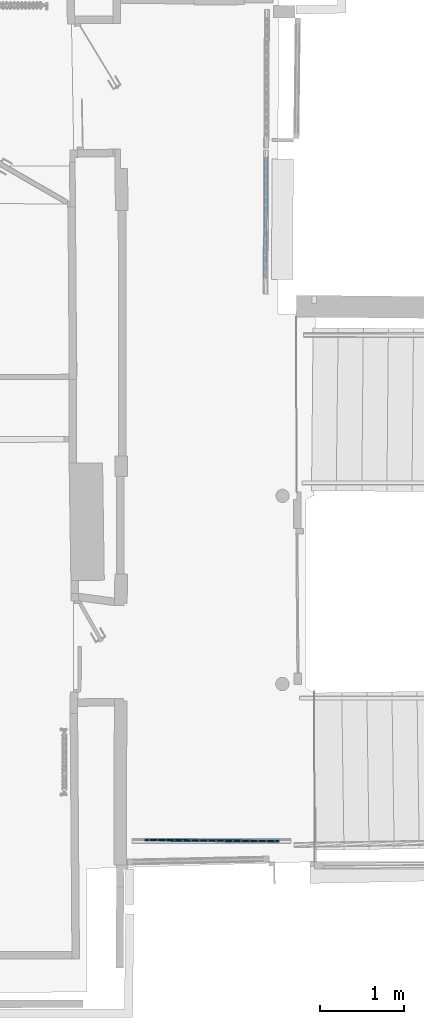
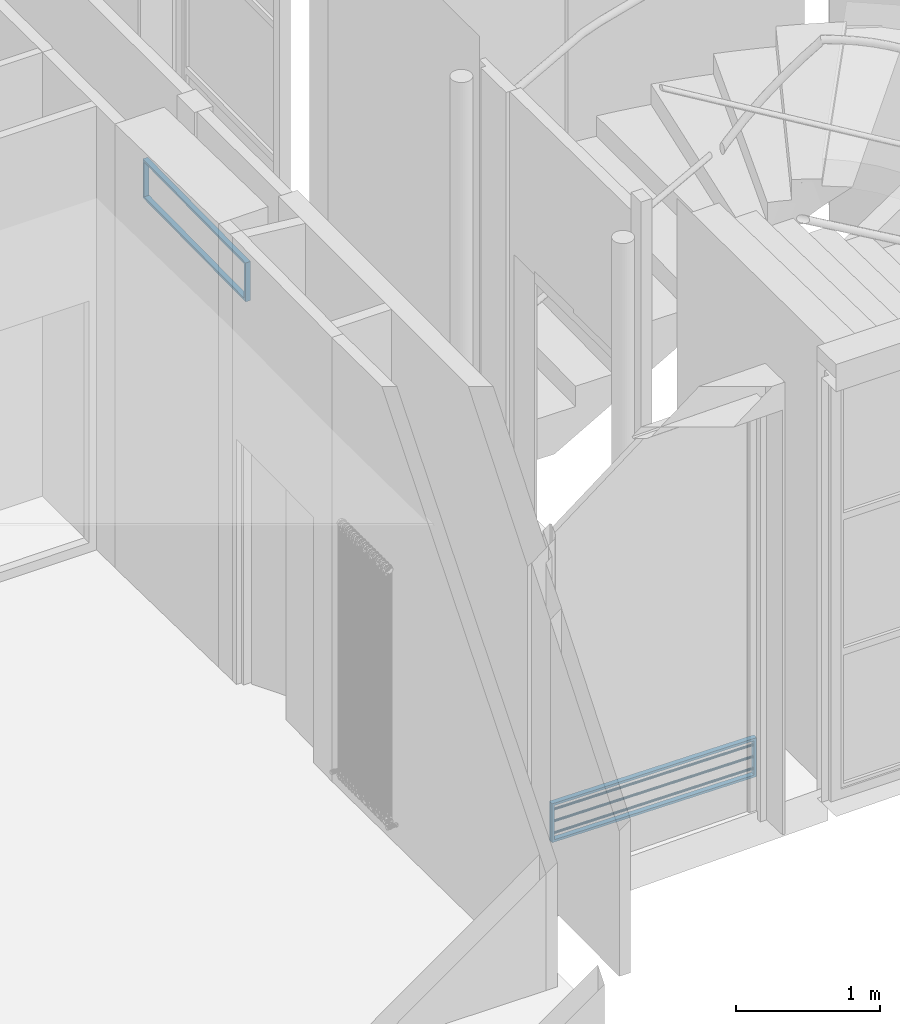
# One storey, part 19 of 66: 5 members, 2 elements without a shape of their own.
"""IFC2X3 building model written with IfcOpenShell, lengths in centimetres."""

from ifc_helpers import new_model, entity, si_unit, converted_unit, direction, frame, origin, origin_with_axes, place, context, subcontext, project, spatial, faceted_brep, material, type_object, element, aggregate, save


model = new_model("IFC2X3")

# Units and contexts
model_context = context("Model", 3, precision=0.0001, world=origin(), true_north=direction((0.225632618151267, 0.974212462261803, 0.0)))
body_context = subcontext(model_context, "Body", "Model", "MODEL_VIEW")
ifc_project = project(units=[si_unit("LENGTHUNIT", "METRE", prefix="CENTI"), si_unit("AREAUNIT", "SQUARE_METRE", prefix="CENTI"), si_unit("VOLUMEUNIT", "CUBIC_METRE", prefix="CENTI"), converted_unit("PLANEANGLEUNIT", "DEGREE", entity("IfcRatioMeasure", 0.0174532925), si_unit("PLANEANGLEUNIT", "RADIAN"), dimensions=[0, 0, 0, 0, 0, 0, 0])], contexts=[model_context])

# Site, building, storey
site_placement = place(None, origin_with_axes())
site = spatial("IfcSite", under=ifc_project, at=site_placement, Name="Default Site", CompositionType="ELEMENT")
building_placement = place(site_placement, origin_with_axes())
building = spatial("IfcBuilding", under=site, at=building_placement, Name="Default Building", CompositionType="ELEMENT")
storey_placement = place(building_placement, frame((0.0, 0.0, 477.795358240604), z_axis=(0.0, 0.0, 1.0), x_axis=(1.0, 0.0, 0.0)))
storey = spatial("IfcBuildingStorey", under=building, at=storey_placement, Name="Niveau 1", CompositionType="ELEMENT", Elevation=477.795358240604)

# Assembly, member
building_element_proxy_type = type_object("IfcBuildingElementProxyType", Name="Type Object", PredefinedType="NOTDEFINED")
assembly_1_placement = place(storey_placement, frame((1064.33713672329, -30.426748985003, 9.99999999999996), z_axis=(0.0, 0.0, 1.0), x_axis=(-0.00922380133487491, -0.999957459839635, 0.0)))
assembly_1 = element("IfcElementAssembly", 1, at=assembly_1_placement, inside=storey, type_object=building_element_proxy_type, Name="Panneau 1702026", ObjectType="Precast panel", PredefinedType="USERDEFINED")
ifc_material = material(Name="Aluminium satiné")
member_1_placement = place(assembly_1_placement, frame((1.99999995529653, 1.99999995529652, 31.0000002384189), z_axis=(1.0, -1.0321604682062e-15, -1.19636099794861e-17), x_axis=(1.0321604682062e-15, 1.0, 0.0)))
member_1 = element("IfcMember", 2, at=member_1_placement, material=ifc_material, Name="4294967079", context=body_context, shape_type="Brep", body=[
    faceted_brep([(-5.29437604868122e-13, -3.33066907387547e-13, -6.59194920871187e-15), (-3.99999991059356, -3.33066907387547e-13, -2.40779627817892e-15), (-3.99999991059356, -29.0000002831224, -2.40779627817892e-15), (-5.29437604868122e-13, -29.0000002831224, -6.59194920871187e-15), (-3.99999991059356, -3.33066907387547e-13, -2.42861286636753e-15), (-3.99999991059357, 2.00000107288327, -1.99999995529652), (-3.99999991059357, -31.0000002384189, -1.99999995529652), (-3.99999991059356, -29.0000002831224, -2.08166817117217e-15), (-5.31519273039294e-13, 2.00000107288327, -1.99999995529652), (-5.31519273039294e-13, -31.0000002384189, -1.99999995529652), (-5.29427196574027e-13, -3.33066907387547e-13, -6.59194920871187e-15), (-5.29427196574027e-13, -29.0000002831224, -6.24500451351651e-15), (-5.29437604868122e-13, -29.0000002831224, -6.24500451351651e-15), (-3.99999991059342, -29.0000002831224, 140.999994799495), (-3.81986109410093e-13, -29.0000002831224, 140.999994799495), (-3.99999991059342, -31.0000002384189, 143.000004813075), (-3.79904441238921e-13, -31.0000002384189, 143.000004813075), (-3.81935807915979e-13, -29.0000002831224, 140.999994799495), (-3.79843720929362e-13, -31.0000002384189, 143.000004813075), (-3.99999991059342, -3.33066907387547e-13, 140.999994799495), (-3.81986109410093e-13, -3.33066907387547e-13, 140.999994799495), (-3.99999991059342, 2.00000107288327, 143.000004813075), (-3.79904441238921e-13, 2.00000107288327, 143.000004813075), (-3.81996528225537e-13, -29.0000002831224, 140.999994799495), (-3.81996528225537e-13, -3.33066907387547e-13, 140.999994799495), (-3.99999991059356, -3.34753776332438e-13, -2.42861286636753e-15), (-5.29437604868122e-13, -3.34753776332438e-13, -6.59194920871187e-15), (-5.29487916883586e-13, -3.33066907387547e-13, -6.59194920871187e-15), (-5.31579993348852e-13, 2.00000107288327, -1.99999995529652)], [[[0, 1, 2, 3]], [[4, 5, 6, 7]], [[5, 8, 9, 6]], [[8, 10, 11, 9]], [[12, 7, 13, 14]], [[7, 6, 15, 13]], [[6, 9, 16, 15]], [[9, 11, 17, 18]], [[14, 13, 19, 20]], [[13, 15, 21, 19]], [[15, 16, 22, 21]], [[16, 23, 24, 22]], [[20, 19, 25, 26]], [[19, 21, 5, 4]], [[21, 22, 8, 5]], [[22, 24, 27, 28]]]),
])
aggregate(assembly_1, [member_1])

# Assembly, members
assembly_2_placement = place(storey_placement, frame((1081.09889200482, -848.13, 9.99999999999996), z_axis=(0.0, 0.0, 1.0), x_axis=(-0.999957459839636, 0.00922380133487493, 0.0)))
assembly_2 = element("IfcElementAssembly", 3, at=assembly_2_placement, inside=storey, type_object=building_element_proxy_type, Name="Panneau 1702007", ObjectType="Precast panel", PredefinedType="USERDEFINED")
member_2_placement = place(assembly_2_placement, frame((1.99999995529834, 1.99999995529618, 31.0000002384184), z_axis=(1.0, -3.79904441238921e-15, -1.19636099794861e-17), x_axis=(3.79904441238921e-15, 1.0, 0.0)))
member_2 = element("IfcMember", 4, at=member_2_placement, material=ifc_material, Name="4294967043", context=body_context, shape_type="Brep", body=[
    faceted_brep([(8.95811202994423e-13, 3.33066907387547e-13, -1.07379383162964e-12), (-3.99999991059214, 3.33066907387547e-13, -1.05867398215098e-12), (-3.99999991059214, -29.0000002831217, -1.05867398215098e-12), (8.95811202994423e-13, -29.0000002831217, -1.07379383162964e-12), (-3.99999991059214, 3.33066907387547e-13, -1.05852826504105e-12), (-3.99999991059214, 2.00000107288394, -1.99999995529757), (-3.99999991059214, -31.0000002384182, -1.99999995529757), (-3.99999991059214, -29.0000002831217, -1.05818132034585e-12), (8.88178419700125e-13, 2.00000107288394, -1.99999995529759), (8.88178419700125e-13, -31.0000002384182, -1.99999995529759), (8.95738344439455e-13, 3.33066907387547e-13, -1.07379383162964e-12), (8.95738344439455e-13, -29.0000002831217, -1.07344688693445e-12), (8.95811202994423e-13, -29.0000002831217, -1.07344688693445e-12), (-3.99999991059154, -29.0000002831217, 159.000001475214), (1.49671941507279e-12, -29.0000002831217, 159.000001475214), (-3.99999991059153, -31.0000002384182, 160.999999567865), (1.50435219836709e-12, -31.0000002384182, 160.999999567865), (1.49675238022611e-12, -29.0000002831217, 159.000001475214), (1.50431229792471e-12, -31.0000002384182, 160.999999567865), (-3.99999991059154, 3.33066907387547e-13, 159.000001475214), (1.49671941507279e-12, 3.33066907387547e-13, 159.000001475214), (-3.99999991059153, 2.00000107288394, 160.999999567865), (1.50435219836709e-12, 2.00000107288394, 160.999999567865), (1.49679228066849e-12, -29.0000002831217, 159.000001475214), (1.49679228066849e-12, 3.33066907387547e-13, 159.000001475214), (-3.99999991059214, 3.3116469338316e-13, -1.05852826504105e-12), (8.95811202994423e-13, 3.3116469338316e-13, -1.07379383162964e-12), (8.95778244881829e-13, 3.33066907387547e-13, -1.07379383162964e-12), (8.88218320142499e-13, 2.00000107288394, -1.99999995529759)], [[[0, 1, 2, 3]], [[4, 5, 6, 7]], [[5, 8, 9, 6]], [[8, 10, 11, 9]], [[12, 7, 13, 14]], [[7, 6, 15, 13]], [[6, 9, 16, 15]], [[9, 11, 17, 18]], [[14, 13, 19, 20]], [[13, 15, 21, 19]], [[15, 16, 22, 21]], [[16, 23, 24, 22]], [[20, 19, 25, 26]], [[19, 21, 5, 4]], [[21, 22, 8, 5]], [[22, 24, 27, 28]]]),
])
member_3_placement = place(assembly_2_placement, frame((161.000001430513, 0.342020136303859, 25.5603075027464), z_axis=(1.0, -2.2110958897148e-13, -1.27647892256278e-13), x_axis=(-2.55309662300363e-13, -0.866024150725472, -0.500002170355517)))
member_3 = element("IfcMember", 5, at=member_3_placement, material=ifc_material, Name="4294967042", context=body_context, shape_type="Brep", body=[
    faceted_brep([(-7.07767178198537e-13, 1.33226762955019e-13, -8.65973959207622e-13), (-0.347296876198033, 9.71445146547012e-14, -9.54636785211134e-13), (-0.673647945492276, -0.118779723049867, -1.03795237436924e-12), (-0.939693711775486, -0.342018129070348, -1.10587246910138e-12), (-1.11334216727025, -0.642784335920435, -1.15020414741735e-12), (-1.17365112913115, -0.98480562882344, -1.16560096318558e-12), (-1.1133435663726, -1.32682410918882, -1.15020509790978e-12), (-0.93969663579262, -1.62759289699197, -1.10587433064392e-12), (-0.673653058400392, -1.85083187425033, -1.03795518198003e-12), (-0.347301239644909, -1.96961451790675, -9.54639607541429e-13), (-4.36344758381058e-06, -1.96961451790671, -8.65976781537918e-13), (0.326346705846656, -1.85083479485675, -7.82661192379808e-13), (0.592392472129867, -1.62759638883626, -7.14741097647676e-13), (0.766040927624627, -1.32683018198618, -6.70409419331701e-13), (0.826349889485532, -0.984808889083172, -6.55012603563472e-13), (0.766042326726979, -0.642790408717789, -6.70408468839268e-13), (0.592395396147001, -0.342021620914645, -7.14739236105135e-13), (0.326351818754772, -0.118782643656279, -7.82658384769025e-13), (0.326351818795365, -0.118782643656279, -159.000001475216), (0.592395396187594, -0.342021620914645, -159.000001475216), (0.766042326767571, -0.642790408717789, -159.000001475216), (0.826349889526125, -0.984808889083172, -159.000001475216), (0.766040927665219, -1.32683018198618, -159.000001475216), (0.59239247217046, -1.62759638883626, -159.000001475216), (0.326346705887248, -1.85083479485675, -159.000001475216), (-4.36340699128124e-06, -1.96961451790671, -159.000001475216), (-0.347301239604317, -1.96961451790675, -159.000001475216), (-0.673653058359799, -1.85083187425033, -159.000001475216), (-0.939696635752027, -1.62759289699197, -159.000001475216), (-1.113343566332, -1.32682410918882, -159.000001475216), (-1.17365112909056, -0.98480562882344, -159.000001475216), (-1.11334216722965, -0.642784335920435, -159.000001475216), (-0.939693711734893, -0.342018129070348, -159.000001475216), (-0.673647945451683, -0.118779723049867, -159.000001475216), (-0.347296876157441, 9.71445146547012e-14, -159.000001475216), (3.98847621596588e-11, 1.33226762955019e-13, -159.000001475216), (0.326351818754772, -0.118782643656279, -7.99360577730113e-13), (0.592395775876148, -0.342021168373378, -7.32747099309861e-13), (0.59239577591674, -0.342021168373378, -159.000001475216), (0.326351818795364, -0.118782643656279, -159.000001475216), (0.592395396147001, -0.342021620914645, -7.32747196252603e-13), (0.766043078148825, -0.642789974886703, -6.88338083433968e-13), (0.766043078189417, -0.642789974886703, -159.000001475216), (0.592395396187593, -0.342021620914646, -159.000001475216), (0.766042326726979, -0.642790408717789, -6.88338275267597e-13), (0.826348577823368, -0.984809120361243, -6.43929689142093e-13), (0.82634857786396, -0.984809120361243, -159.000001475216), (0.826349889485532, -0.984808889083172, -6.43929354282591e-13), (0.766041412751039, -1.3268302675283, -6.66133690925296e-13), (0.76604141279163, -1.3268302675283, -159.000001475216), (0.826349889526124, -0.984808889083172, -159.000001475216), (0.766040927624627, -1.32683018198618, -6.66133814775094e-13), (0.592392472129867, -1.62759638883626, -7.105427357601e-13), (0.592392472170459, -1.62759638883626, -159.000001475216), (0.326346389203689, -1.85083441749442, -7.77156198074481e-13), (0.326346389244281, -1.85083441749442, -159.000001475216), (0.326346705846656, -1.85083479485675, -7.7715611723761e-13), (-3.90791545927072e-06, -1.96961576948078, -8.88178303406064e-13), (-3.90787486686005e-06, -1.96961576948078, -159.000001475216), (-4.36344758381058e-06, -1.96961451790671, -8.88178419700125e-13), (-0.347301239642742, -1.96961365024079, -9.76996261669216e-13), (-0.347301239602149, -1.96961365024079, -159.000001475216), (-0.347301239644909, -1.96961451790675, -9.76996261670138e-13), (-0.673652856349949, -1.85083131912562, -1.04360959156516e-12), (-0.673652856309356, -1.85083131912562, -159.000001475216), (-0.673653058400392, -1.85083187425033, -1.04360964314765e-12), (-0.939697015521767, -1.62759334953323, -1.1102231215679e-12), (-0.939697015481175, -1.62759334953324, -159.000001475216), (-0.6736530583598, -1.85083187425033, -159.000001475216), (-0.93969663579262, -1.62759289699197, -1.11022302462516e-12), (-1.11334431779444, -1.32682454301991, -1.15463213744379e-12), (-1.11334431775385, -1.32682454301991, -159.000001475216), (-0.939696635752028, -1.62759289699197, -159.000001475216), (-1.1133435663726, -1.32682410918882, -1.15463194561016e-12), (-1.17364981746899, -0.984805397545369, -1.17683607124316e-12), (-1.17364981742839, -0.984805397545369, -159.000001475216), (-1.17365112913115, -0.98480562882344, -1.17683640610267e-12), (-1.11334265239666, -0.642784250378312, -1.15463206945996e-12), (-1.11334265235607, -0.642784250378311, -159.000001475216), (-1.11334216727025, -0.642784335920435, -1.15463194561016e-12), (-0.939693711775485, -0.342018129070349, -1.11022302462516e-12), (-0.939693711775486, -0.342018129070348, -1.11022302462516e-12), (-0.673647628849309, -0.11878010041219, -1.04360956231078e-12), (-0.673647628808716, -0.118780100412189, -159.000001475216), (-0.673647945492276, -0.118779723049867, -1.04360964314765e-12), (-0.347297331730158, 1.25157417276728e-06, -9.54791917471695e-13), (-0.347297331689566, 1.25157417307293e-06, -159.000001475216), (-0.673647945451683, -0.118779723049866, -159.000001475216), (-0.347296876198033, 9.71445146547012e-14, -9.54791801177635e-13), (-2.87549232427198e-12, -8.67665818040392e-07, -8.65973959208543e-13), (3.77170370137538e-11, -8.67665817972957e-07, -159.000001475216), (-0.347296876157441, 9.72119495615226e-14, -159.000001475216), (0.326351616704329, -0.118783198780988, -7.99360629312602e-13), (0.326351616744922, -0.118783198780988, -159.000001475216), (3.98846911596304e-11, 1.33031693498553e-13, -159.000001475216)], [[[0, 1, 2, 3, 4, 5, 6, 7, 8, 9, 10, 11, 12, 13, 14, 15, 16, 17]], [[18, 19, 20, 21, 22, 23, 24, 25, 26, 27, 28, 29, 30, 31, 32, 33, 34, 35]], [[36, 37, 38, 39]], [[40, 41, 42, 43]], [[44, 45, 46, 20]], [[47, 48, 49, 50]], [[51, 52, 53, 22]], [[52, 54, 55, 53]], [[56, 57, 58, 24]], [[59, 60, 61, 25]], [[62, 63, 64, 26]], [[65, 66, 67, 68]], [[69, 70, 71, 72]], [[73, 74, 75, 29]], [[76, 77, 78, 30]], [[79, 80, 32, 31]], [[81, 82, 83, 32]], [[84, 85, 86, 87]], [[88, 89, 90, 91]], [[0, 92, 93, 94]]]),
])
member_4_placement = place(assembly_2_placement, frame((161.000001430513, 0.342020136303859, 15.5603080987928), z_axis=(1.0, -2.2110958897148e-13, -1.2764702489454e-13), x_axis=(-2.55309662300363e-13, -0.866026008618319, -0.499998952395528)))
member_4 = element("IfcMember", 6, at=member_4_placement, material=ifc_material, Name="4294967041", context=body_context, shape_type="Brep", body=[
    faceted_brep([(-8.75688410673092e-13, 1.22124532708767e-13, -7.32747196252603e-13), (-0.347296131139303, 8.60422844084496e-14, -8.2140922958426e-13), (-0.673647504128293, -0.118782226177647, -9.04724227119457e-13), (-0.939691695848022, -0.342020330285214, -9.72643264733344e-13), (-1.11333977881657, -0.64278847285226, -1.01697428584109e-12), (-1.17364672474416, -0.984808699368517, -1.03237018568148e-12), (-1.11333863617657, -1.32682824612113, -1.01697399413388e-12), (-0.939690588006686, -1.62759638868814, -9.72642981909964e-13), (-0.673645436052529, -1.85083308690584, -9.04723699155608e-13), (-0.347293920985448, -1.96961580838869, -8.21408665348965e-13), (2.9552094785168e-06, -1.96961451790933, -7.32746441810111e-13), (0.326354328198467, -1.8508322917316, -6.49431444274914e-13), (0.592398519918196, -1.62759418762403, -5.81512406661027e-13), (0.766046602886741, -1.32682604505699, -5.37181385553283e-13), (0.826353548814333, -0.984805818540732, -5.21785485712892e-13), (0.766045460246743, -0.642786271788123, -5.37181677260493e-13), (0.592396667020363, -0.342019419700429, -5.81512879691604e-13), (0.326352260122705, -0.118781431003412, -6.49431972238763e-13), (0.326352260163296, -0.118781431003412, -159.000001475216), (0.592396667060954, -0.342019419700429, -159.000001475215), (0.766045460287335, -0.642786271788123, -159.000001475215), (0.826353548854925, -0.984805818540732, -159.000001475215), (0.766046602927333, -1.32682604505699, -159.000001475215), (0.592398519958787, -1.62759418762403, -159.000001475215), (0.326354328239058, -1.8508322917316, -159.000001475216), (2.95525006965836e-06, -1.96961451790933, -159.000001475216), (-0.347293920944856, -1.96961580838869, -159.000001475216), (-0.673645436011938, -1.85083308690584, -159.000001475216), (-0.939690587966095, -1.62759638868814, -159.000001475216), (-1.11333863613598, -1.32682824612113, -159.000001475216), (-1.17364672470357, -0.984808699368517, -159.000001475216), (-1.11333977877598, -0.64278847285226, -159.000001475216), (-0.939691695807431, -0.342020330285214, -159.000001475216), (-0.673647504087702, -0.118782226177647, -159.000001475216), (-0.347296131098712, 8.60422844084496e-14, -159.000001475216), (3.97154531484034e-11, 1.22124532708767e-13, -159.000001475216), (0.326352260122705, -0.118781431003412, -6.66133814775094e-13), (0.592397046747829, -0.34201896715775, -5.99520336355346e-13), (0.592397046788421, -0.342018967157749, -159.000001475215), (0.592396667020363, -0.342019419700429, -5.99520433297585e-13), (0.766045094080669, -0.642786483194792, -5.55111605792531e-13), (0.76604509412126, -0.642786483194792, -159.000001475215), (0.592396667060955, -0.342019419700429, -159.000001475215), (0.766045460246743, -0.642786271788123, -5.55111512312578e-13), (0.826353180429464, -0.984805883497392, -5.32907145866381e-13), (0.826353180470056, -0.984805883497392, -159.000001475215), (0.826353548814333, -0.984805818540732, -5.32907051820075e-13), (0.766046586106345, -1.32682604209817, -5.55111516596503e-13), (0.766046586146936, -1.32682604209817, -159.000001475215), (0.766046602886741, -1.32682604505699, -5.55111512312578e-13), (0.592398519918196, -1.62759418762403, -5.99520433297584e-13), (0.592398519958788, -1.62759418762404, -159.000001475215), (0.766046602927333, -1.32682604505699, -159.000001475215), (0.592398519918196, -1.62759418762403, -5.99520433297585e-13), (0.326354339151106, -1.85083230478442, -6.66133811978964e-13), (0.326354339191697, -1.85083230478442, -159.000001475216), (0.326354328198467, -1.8508322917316, -6.66133814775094e-13), (3.08314864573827e-06, -1.96961486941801, -7.54951624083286e-13), (3.08318923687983e-06, -1.96961486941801, -159.000001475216), (2.9552094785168e-06, -1.96961451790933, -7.54951656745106e-13), (-0.347293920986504, -1.96961494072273, -8.43769498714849e-13), (-0.347293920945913, -1.96961494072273, -159.000001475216), (-0.347293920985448, -1.96961580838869, -8.43769498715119e-13), (-0.673645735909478, -1.85083391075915, -9.32587417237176e-13), (-0.673645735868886, -1.85083391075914, -159.000001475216), (-0.673645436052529, -1.85083308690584, -9.32587340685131e-13), (-0.939690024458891, -1.62759571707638, -9.76996117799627e-13), (-0.9396900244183, -1.62759571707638, -159.000001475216), (-0.939690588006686, -1.62759638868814, -9.76996261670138e-13), (-1.1133393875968, -1.326828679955, -1.02140537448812e-12), (-1.11333938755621, -1.326828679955, -159.000001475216), (-0.939690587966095, -1.62759638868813, -159.000001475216), (-1.11333863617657, -1.32682824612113, -1.02140518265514e-12), (-1.17364635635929, -0.984808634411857, -1.06581400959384e-12), (-1.1736463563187, -0.984808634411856, -159.000001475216), (-1.17364672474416, -0.984808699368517, -1.06581410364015e-12), (-1.11333976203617, -0.642788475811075, -1.04360963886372e-12), (-1.11333976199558, -0.642788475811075, -159.000001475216), (-1.11333977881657, -0.64278847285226, -1.04360964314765e-12), (-0.939691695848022, -0.342020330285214, -9.99200722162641e-13), (-0.673647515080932, -0.118782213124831, -9.32587343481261e-13), (-0.673647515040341, -0.118782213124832, -159.000001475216), (-0.93969169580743, -0.342020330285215, -159.000001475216), (-0.673647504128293, -0.118782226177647, -9.32587340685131e-13), (-0.347296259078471, 3.51508761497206e-07, -8.21565070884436e-13), (-0.347296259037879, 3.51508761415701e-07, -159.000001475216), (-0.347296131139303, 8.60422844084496e-14, -8.21565038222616e-13), (-1.3904375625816e-12, 4.22812579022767e-07, -7.32747196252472e-13), (3.92007039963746e-11, 4.22812579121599e-07, -159.000001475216), (-0.347296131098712, 8.61411165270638e-14, -159.000001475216), (0.326352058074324, -0.118781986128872, -6.66133866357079e-13), (0.326352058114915, -0.118781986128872, -159.000001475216), (3.9715546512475e-11, 1.22381049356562e-13, -159.000001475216)], [[[0, 1, 2, 3, 4, 5, 6, 7, 8, 9, 10, 11, 12, 13, 14, 15, 16, 17]], [[18, 19, 20, 21, 22, 23, 24, 25, 26, 27, 28, 29, 30, 31, 32, 33, 34, 35]], [[36, 37, 38, 18]], [[39, 40, 41, 42]], [[43, 44, 45, 20]], [[46, 47, 48, 21]], [[49, 50, 51, 52]], [[53, 54, 55, 23]], [[56, 57, 58, 24]], [[59, 60, 61, 25]], [[62, 63, 64, 26]], [[65, 66, 67, 27]], [[68, 69, 70, 71]], [[72, 73, 74, 29]], [[75, 76, 77, 30]], [[78, 79, 32, 31]], [[79, 80, 81, 82]], [[83, 84, 85, 33]], [[86, 87, 88, 89]], [[0, 90, 91, 92]]]),
])
member_5_placement = place(assembly_2_placement, frame((161.000001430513, 0.342020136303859, 5.5603072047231), z_axis=(1.0, -2.21111323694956e-13, -1.27647892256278e-13), x_axis=(-2.55311397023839e-13, -0.866025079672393, -0.500000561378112)))
member_5 = element("IfcMember", 7, at=member_5_placement, material=ifc_material, Name="4294967040", context=body_context, shape_type="Brep", body=[
    faceted_brep([(-1.07761022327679e-12, -1.3392065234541e-13, -1.04360964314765e-12), (-0.347296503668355, -1.69309011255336e-13, -1.13227237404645e-12), (-0.673648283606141, -0.118781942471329, -1.21558804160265e-12), (-0.939693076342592, -0.342019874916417, -1.28350769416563e-12), (-1.11334134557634, -0.642787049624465, -1.32783906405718e-12), (-1.17364892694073, -0.984807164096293, -1.34323523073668e-12), (-1.11334184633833, -1.32682746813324, -1.32783919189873e-12), (-0.939693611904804, -1.62759464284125, -1.28350783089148e-12), (-0.673649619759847, -1.85083312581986, -1.21558838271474e-12), (-0.34729758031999, -1.96961516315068, -1.13227264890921e-12), (-1.44918216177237e-06, -1.96961580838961, -1.04361001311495e-12), (0.326350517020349, -1.85083354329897, -9.60294298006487e-13), (0.592395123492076, -1.62759593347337, -8.92374692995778e-13), (0.766043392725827, -1.32682875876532, -8.4804332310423e-13), (0.826351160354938, -0.984808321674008, -8.32647108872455e-13), (0.766043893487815, -0.642788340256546, -8.48043195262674e-13), (0.592396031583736, -0.34202052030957, -8.92374461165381e-13), (0.326351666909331, -0.118782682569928, -9.60294004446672e-13), (0.326351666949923, -0.118782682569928, -159.000001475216), (0.592396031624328, -0.34202052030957, -159.000001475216), (0.766043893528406, -0.642788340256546, -159.000001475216), (0.82635116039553, -0.984808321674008, -159.000001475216), (0.766043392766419, -1.32682875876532, -159.000001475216), (0.592395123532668, -1.62759593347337, -159.000001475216), (0.326350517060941, -1.85083354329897, -159.000001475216), (-1.44914156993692e-06, -1.96961580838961, -159.000001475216), (-0.347297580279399, -1.96961516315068, -159.000001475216), (-0.673649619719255, -1.85083312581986, -159.000001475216), (-0.939693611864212, -1.62759464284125, -159.000001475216), (-1.11334184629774, -1.32682746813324, -159.000001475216), (-1.17364892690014, -0.984807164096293, -159.000001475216), (-1.11334134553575, -0.642787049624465, -159.000001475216), (-0.939693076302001, -0.342019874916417, -159.000001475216), (-0.673648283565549, -0.118781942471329, -159.000001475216), (-0.347296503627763, -1.69309011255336e-13, -159.000001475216), (3.95138782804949e-11, -1.3392065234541e-13, -159.000001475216), (0.326351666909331, -0.118782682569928, -9.76996261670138e-13), (0.592395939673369, -0.342020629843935, -9.10382903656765e-13), (0.59239593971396, -0.342020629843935, -159.000001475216), (0.326351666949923, -0.118782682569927, -159.000001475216), (0.592396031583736, -0.34202052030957, -9.10382880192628e-13), (0.766044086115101, -0.642788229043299, -8.6597391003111e-13), (0.766044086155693, -0.642788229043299, -159.000001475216), (0.592396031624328, -0.342020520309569, -159.000001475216), (0.766043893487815, -0.642788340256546, -8.65973959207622e-13), (0.826351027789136, -0.98480834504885, -8.21565072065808e-13), (0.826351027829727, -0.98480834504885, -159.000001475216), (0.766043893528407, -0.642788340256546, -159.000001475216), (0.826351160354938, -0.984808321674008, -8.21565038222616e-13), (0.766043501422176, -1.32682877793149, -8.4376947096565e-13), (0.766043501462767, -1.32682877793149, -159.000001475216), (0.766043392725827, -1.32682875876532, -8.43769498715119e-13), (0.592395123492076, -1.62759593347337, -8.88178419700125e-13), (0.766043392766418, -1.32682875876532, -159.000001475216), (0.326350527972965, -1.85083355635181, -9.54791798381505e-13), (0.326350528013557, -1.85083355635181, -159.000001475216), (0.326350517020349, -1.85083354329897, -9.54791801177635e-13), (-1.48504161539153e-06, -1.96961570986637, -1.06581411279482e-12), (-1.48500102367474e-06, -1.96961570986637, -159.000001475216), (-1.44918216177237e-06, -1.96961580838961, -1.06581410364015e-12), (-0.347297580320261, -1.96961558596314, -1.15463194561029e-12), (-0.34729758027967, -1.96961558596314, -159.000001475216), (-0.34729758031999, -1.96961516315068, -1.15463194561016e-12), (-0.673649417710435, -1.85083257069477, -1.22124527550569e-12), (-0.673649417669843, -1.85083257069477, -159.000001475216), (-0.673649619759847, -1.85083312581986, -1.22124532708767e-12), (-0.939693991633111, -1.62759509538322, -1.28785880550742e-12), (-0.939693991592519, -1.62759509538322, -159.000001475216), (-0.939693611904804, -1.62759464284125, -1.28785870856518e-12), (-1.11334148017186, -1.32682725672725, -1.33226753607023e-12), (-1.11334148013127, -1.32682725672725, -159.000001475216), (-1.11334184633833, -1.32682746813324, -1.33226762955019e-12), (-1.17364903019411, -0.984807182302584, -1.35447211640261e-12), (-1.17364903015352, -0.984807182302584, -159.000001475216), (-1.17364892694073, -0.984807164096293, -1.35447209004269e-12), (-1.11334132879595, -0.642787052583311, -1.33226762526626e-12), (-1.11334132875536, -0.642787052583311, -159.000001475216), (-1.11334134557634, -0.642787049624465, -1.33226762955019e-12), (-0.939693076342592, -0.342019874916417, -1.28785870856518e-12), (-0.939693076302, -0.342019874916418, -159.000001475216), (-0.673648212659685, -0.118782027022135, -1.22124530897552e-12), (-0.673648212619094, -0.118782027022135, -159.000001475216), (-0.673648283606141, -0.118781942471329, -1.22124532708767e-12), (-0.347296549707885, 1.26492664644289e-07, -1.13242749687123e-12), (-0.347296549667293, 1.26492664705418e-07, -159.000001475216), (-0.673648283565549, -0.118781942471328, -159.000001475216), (-0.347296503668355, -1.69309011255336e-13, -1.13242748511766e-12), (-1.22006385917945e-12, -2.2242688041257e-07, -1.04360964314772e-12), (3.93714246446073e-11, -2.22426880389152e-07, -159.000001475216), (-0.347296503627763, -1.69285593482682e-13, -159.000001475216), (0.326351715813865, -0.118782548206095, -9.76996249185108e-13), (0.326351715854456, -0.118782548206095, -159.000001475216), (3.95139068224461e-11, -1.33842234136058e-13, -159.000001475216)], [[[0, 1, 2, 3, 4, 5, 6, 7, 8, 9, 10, 11, 12, 13, 14, 15, 16, 17]], [[18, 19, 20, 21, 22, 23, 24, 25, 26, 27, 28, 29, 30, 31, 32, 33, 34, 35]], [[36, 37, 38, 39]], [[40, 41, 42, 43]], [[44, 45, 46, 47]], [[48, 49, 50, 21]], [[51, 52, 23, 53]], [[52, 54, 55, 23]], [[56, 57, 58, 24]], [[59, 60, 61, 25]], [[62, 63, 64, 26]], [[65, 66, 67, 27]], [[68, 69, 70, 28]], [[71, 72, 73, 29]], [[74, 75, 76, 30]], [[77, 78, 79, 31]], [[78, 80, 81, 79]], [[82, 83, 84, 85]], [[86, 87, 88, 89]], [[0, 90, 91, 92]]]),
])
aggregate(assembly_2, [member_2, member_3, member_4, member_5])

save(model, "model.ifc")
